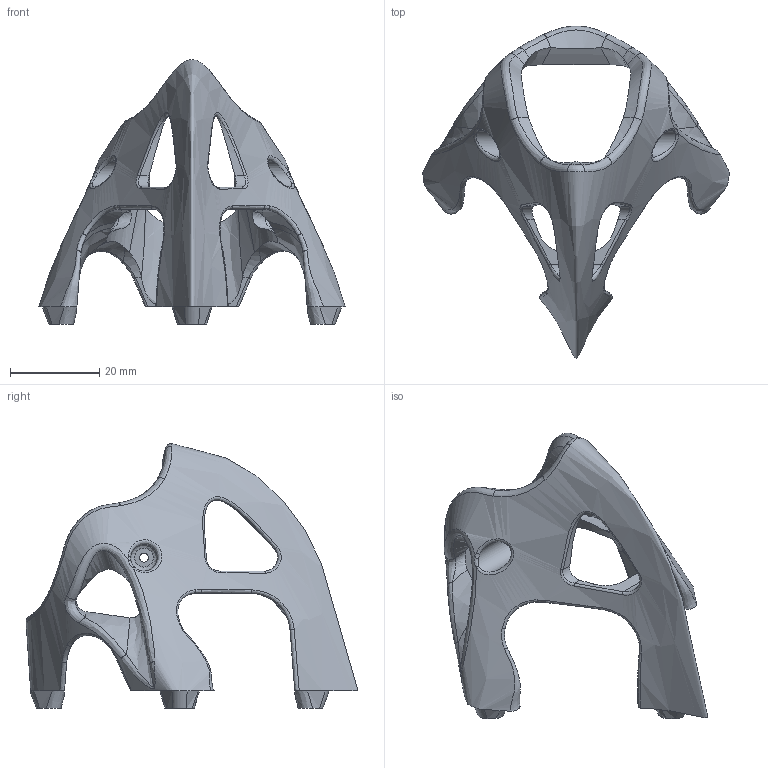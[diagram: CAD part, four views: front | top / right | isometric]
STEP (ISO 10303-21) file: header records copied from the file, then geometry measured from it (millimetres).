
FILE_DESCRIPTION(('FreeCAD Model'),'2;1');
FILE_NAME('Open CASCADE Shape Model','2023-03-30T23:58:34',(''),(''), 'Open CASCADE STEP processor 7.6','FreeCAD','Unknown');
FILE_SCHEMA(('AUTOMOTIVE_DESIGN { 1 0 10303 214 1 1 1 1 }'));
Products named in the file (1): Canopy 19mm
Bounding box: 68.73 x 74.47 x 59.4 mm (x, y, z)
Volume: 17852.5 mm3; surface area: 11480.1 mm2
Topology: 1 solids, 1 shells, 181 faces, 482 edges, 290 vertices
Faces by surface type: bspline 146, plane 16, cylinder 9, extrusion 4, cone 4, revolution 2
Full cylindrical faces by diameter (mm): 2 x2, 6 x2
Entity records: 93732 total; most frequent: CARTESIAN_POINT 86886, ORIENTED_EDGE 948, PCURVE 948, DEFINITIONAL_REPRESENTATION 948, B_SPLINE_CURVE_WITH_KNOTS 805, DIRECTION 479, EDGE_CURVE 474, SURFACE_CURVE 468
